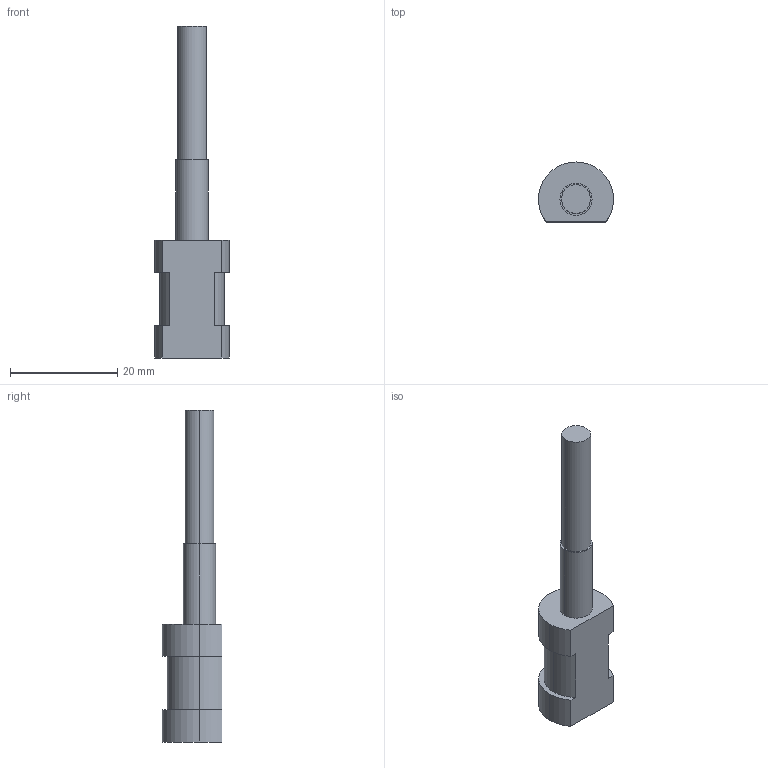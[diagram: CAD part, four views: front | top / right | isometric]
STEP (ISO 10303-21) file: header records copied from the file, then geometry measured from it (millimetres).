
FILE_DESCRIPTION (( 'STEP AP203' ), '1' );
FILE_NAME ('ALTF1-PT1000-PVC-2.STEP', '2019-10-08T11:49:56', ( '' ), ( '' ), 'SwSTEP 2.0', 'SolidWorks 2016', '' );
FILE_SCHEMA (( 'CONFIG_CONTROL_DESIGN' ));
Length unit declared in the file: millimetre
Products named in the file (1): ALTF1-PT1000-PVC-2
Bounding box: 14 x 11.2 x 62 mm (x, y, z)
Volume: 3605.5 mm3; surface area: 1903.7 mm2
Topology: 1 solids, 1 shells, 20 faces, 48 edges, 32 vertices
Faces by surface type: cylinder 13, plane 7
Entity records: 675 total; most frequent: DIRECTION 116, CARTESIAN_POINT 101, ORIENTED_EDGE 96, EDGE_CURVE 48, AXIS2_PLACEMENT_3D 47, VERTEX_POINT 32, CIRCLE 26, VECTOR 22
